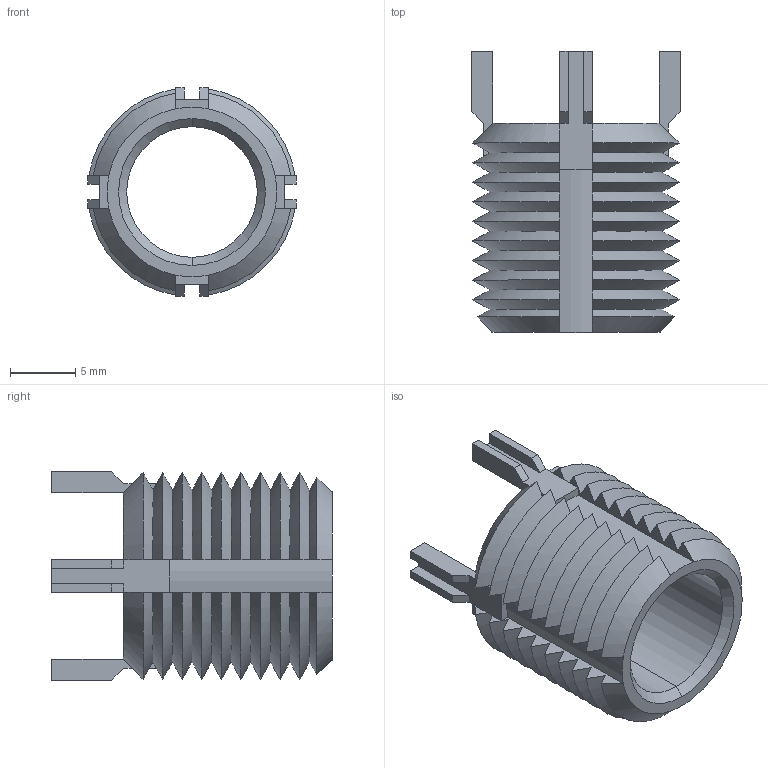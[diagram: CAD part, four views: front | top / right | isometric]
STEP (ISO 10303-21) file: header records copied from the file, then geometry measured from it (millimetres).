
FILE_DESCRIPTION (( 'STEP AP203' ), '1' );
FILE_NAME ('Default.step', '2020-01-04T21:54:34', ( '' ), ( '' ), 'SwSTEP 2.0', 'SolidWorks 2017', '' );
FILE_SCHEMA (( 'CONFIG_CONTROL_DESIGN' ));
Length unit declared in the file: millimetre
Products named in the file (1): Default
Bounding box: 15.96 x 21.5 x 15.96 mm (x, y, z)
Volume: 1381.1 mm3; surface area: 2169.4 mm2
Topology: 1 solids, 1 shells, 180 faces, 474 edges, 296 vertices
Faces by surface type: plane 90, cone 84, cylinder 6
Entity records: 5739 total; most frequent: CARTESIAN_POINT 1551, ORIENTED_EDGE 948, DIRECTION 736, EDGE_CURVE 474, VERTEX_POINT 296, AXIS2_PLACEMENT_3D 281, B_SPLINE_CURVE_WITH_KNOTS 200, EDGE_LOOP 182
